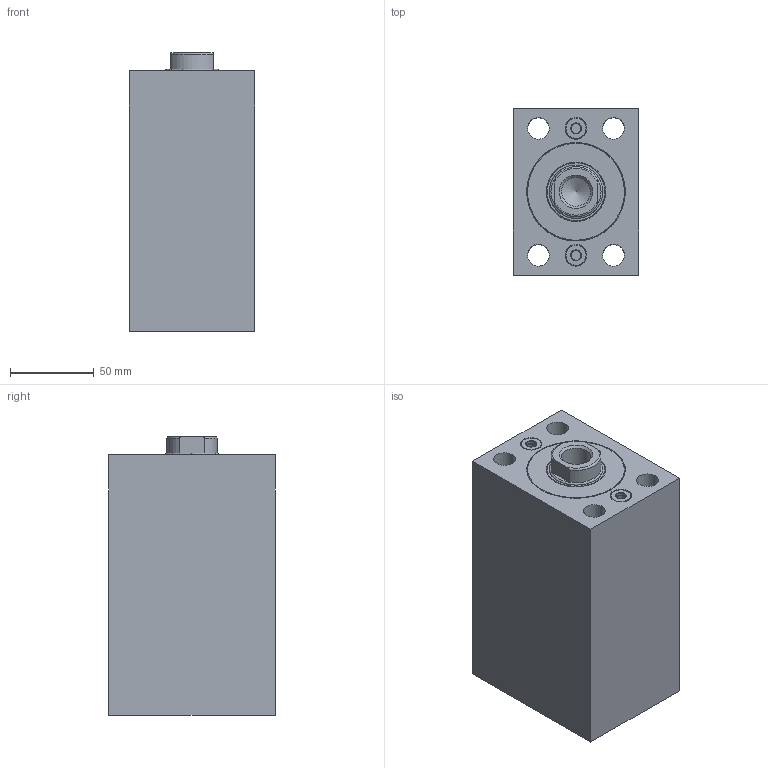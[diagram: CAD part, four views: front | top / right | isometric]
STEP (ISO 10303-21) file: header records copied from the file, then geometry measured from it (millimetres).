
FILE_DESCRIPTION( ( 'STEP AP203' ), '1' );
FILE_NAME( 'C:/Users/SAYKO.ltd/Desktop/SBZ100/07/SBZ100-50/SBZ100.50__FORM_07_STROKE_70__H2_58_POS_0_.stp', ' ', ( ' ' ), ( ' ' ), 'PSStep 15.0.47', 'PARTsolutions', ' ' );
FILE_SCHEMA( ( 'CONFIG_CONTROL_DESIGN' ) );
Length unit declared in the file: millimetre
Products named in the file (5): SBZ100.50  FORM=07 STROKE=70 (H2=58 POS=0); HI_SBZ10050  FORM=07 STROKE=70 H2=58 -C; HI_SBZ10050  FORM=07 STROKE=70-R; HI_SBZ100.50-C; HI_SBZ100.50-S
Assembly tree (4 placements, depth 2):
  SBZ100.50  FORM=07 STROKE=70 (H2=58 POS=0)
    HI_SBZ10050  FORM=07 STROKE=70 H2=58 -C
    HI_SBZ10050  FORM=07 STROKE=70-R
    HI_SBZ100.50-C
    HI_SBZ100.50-S
Bounding box: 75 x 100 x 167 mm (x, y, z)
Volume: 991454 mm3; surface area: 161580.1 mm2
Topology: 4 solids, 4 shells, 74 faces, 136 edges, 87 vertices
Faces by surface type: plane 33, cylinder 28, cone 10, torus 3
Full cylindrical faces by diameter (mm): 6 x4, 13 x6, 17.294 x1, 20 x4, 32 x4, 35.5 x1, 40 x2, 50 x2, 59 x2
Entity records: 4047 total; most frequent: CARTESIAN_POINT 2717, ORIENTED_EDGE 188, DIRECTION 178, EDGE_LOOP 140, FACE_OUTER_BOUND 101, EDGE_CURVE 94, VERTEX_POINT 83, AXIS2_PLACEMENT_3D 81
